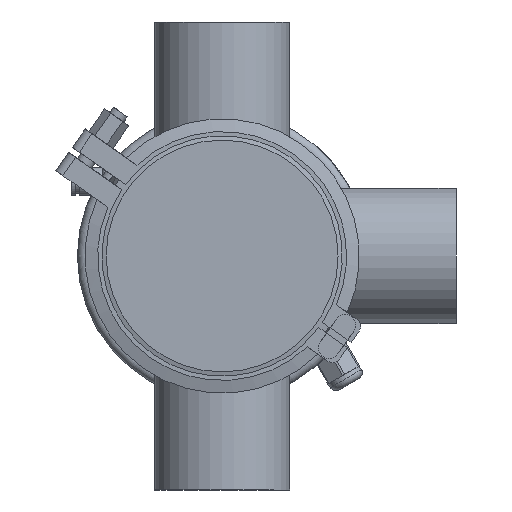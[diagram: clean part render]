
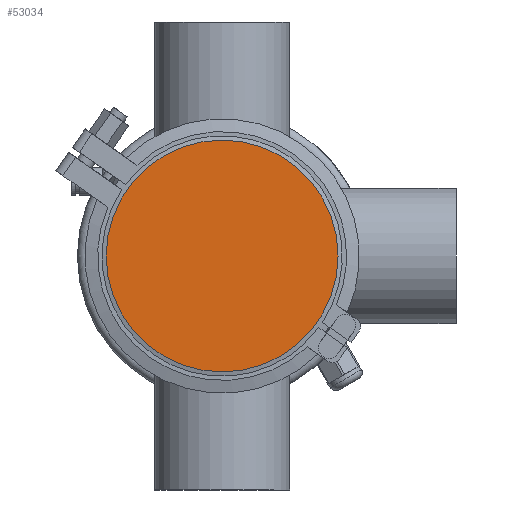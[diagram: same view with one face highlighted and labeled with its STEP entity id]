
A CAD part, front view. The second image highlights one B-rep face of the part: STEP entity #53034.
In plain terms, the highlighted planar face has unit normal (0, -1, 0).
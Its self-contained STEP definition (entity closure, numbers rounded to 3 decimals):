
#6946 = CARTESIAN_POINT ( 'NONE',  ( -54.5, 0., 0. ) ) ;
#10113 = VERTEX_POINT ( 'NONE', #38365 ) ;
#10958 = AXIS2_PLACEMENT_3D ( 'NONE', #43308, #52976, #43929 ) ;
#16801 = PLANE ( 'NONE',  #21090 ) ;
#19864 = CIRCLE ( 'NONE', #10958, 54.5 ) ;
#21090 = AXIS2_PLACEMENT_3D ( 'NONE', #6946, #35190, #39828 ) ;
#32918 = EDGE_LOOP ( 'NONE', ( #55631 ) ) ;
#35190 = DIRECTION ( 'NONE',  ( 0., -1., 0. ) ) ;
#38365 = CARTESIAN_POINT ( 'NONE',  ( 0., 0., 54.5 ) ) ;
#39828 = DIRECTION ( 'NONE',  ( 0., 0., -1. ) ) ;
#43308 = CARTESIAN_POINT ( 'NONE',  ( 0., 0., 0. ) ) ;
#43929 = DIRECTION ( 'NONE',  ( 0., 0., 1. ) ) ;
#49475 = FACE_OUTER_BOUND ( 'NONE', #32918, .T. ) ;
#51448 = EDGE_CURVE ( 'NONE', #10113, #10113, #19864, .T. ) ;
#52976 = DIRECTION ( 'NONE',  ( 0., 1., 0. ) ) ;
#53034 = ADVANCED_FACE ( 'NONE', ( #49475 ), #16801, .T. ) ;
#55631 = ORIENTED_EDGE ( 'NONE', *, *, #51448, .F. ) ;
